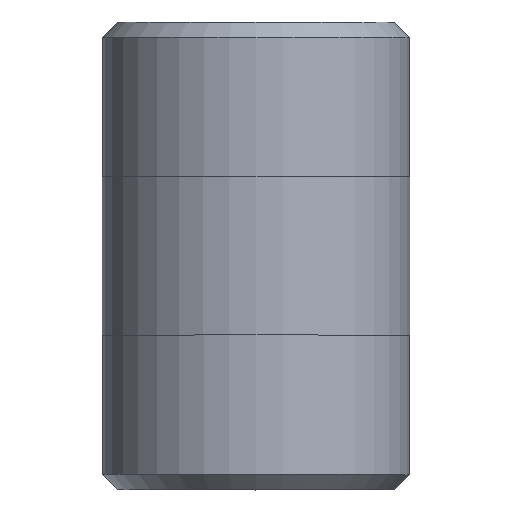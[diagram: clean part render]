
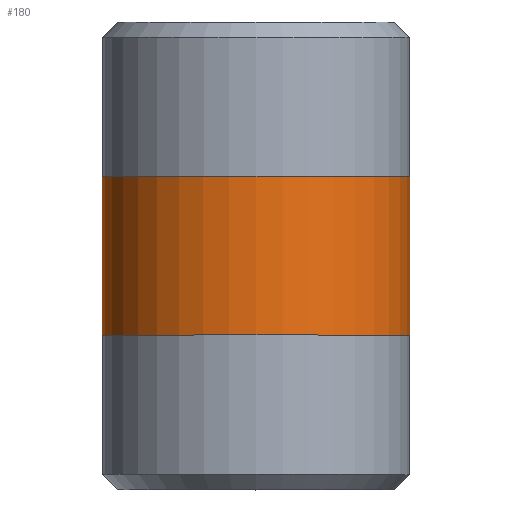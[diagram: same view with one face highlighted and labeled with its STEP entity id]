
A CAD part, top view. The second image highlights one B-rep face of the part: STEP entity #180.
In plain terms, the highlighted cylindrical face has radius 16.701 mm (diameter 33.401 mm), a full revolution.
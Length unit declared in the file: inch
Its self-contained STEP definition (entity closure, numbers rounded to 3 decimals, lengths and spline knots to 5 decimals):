
#25=CYLINDRICAL_SURFACE('',#220,0.6575);
#34=FACE_OUTER_BOUND('',#47,.T.);
#47=EDGE_LOOP('',(#155,#156,#157,#158,#159,#160));
#55=LINE('',#338,#61);
#61=VECTOR('',#283,0.6575);
#77=CIRCLE('',#218,0.6575);
#78=CIRCLE('',#219,0.6575);
#79=CIRCLE('',#221,0.6575);
#80=CIRCLE('',#222,0.6575);
#95=VERTEX_POINT('',#329);
#96=VERTEX_POINT('',#330);
#97=VERTEX_POINT('',#334);
#98=VERTEX_POINT('',#335);
#117=EDGE_CURVE('',#95,#96,#77,.T.);
#118=EDGE_CURVE('',#96,#95,#78,.T.);
#119=EDGE_CURVE('',#97,#98,#79,.T.);
#120=EDGE_CURVE('',#98,#97,#80,.T.);
#121=EDGE_CURVE('',#98,#96,#55,.T.);
#155=ORIENTED_EDGE('',*,*,#119,.F.);
#156=ORIENTED_EDGE('',*,*,#120,.F.);
#157=ORIENTED_EDGE('',*,*,#121,.T.);
#158=ORIENTED_EDGE('',*,*,#118,.T.);
#159=ORIENTED_EDGE('',*,*,#117,.T.);
#160=ORIENTED_EDGE('',*,*,#121,.F.);
#180=ADVANCED_FACE('',(#34),#25,.T.);
#218=AXIS2_PLACEMENT_3D('',#331,#273,#274);
#219=AXIS2_PLACEMENT_3D('',#332,#275,#276);
#220=AXIS2_PLACEMENT_3D('',#333,#277,#278);
#221=AXIS2_PLACEMENT_3D('',#336,#279,#280);
#222=AXIS2_PLACEMENT_3D('',#337,#281,#282);
#273=DIRECTION('center_axis',(0.,-1.,0.));
#274=DIRECTION('ref_axis',(1.,0.,0.));
#275=DIRECTION('center_axis',(0.,-1.,0.));
#276=DIRECTION('ref_axis',(1.,0.,0.));
#277=DIRECTION('center_axis',(0.,-1.,0.));
#278=DIRECTION('ref_axis',(0.,0.,-1.));
#279=DIRECTION('center_axis',(0.,-1.,0.));
#280=DIRECTION('ref_axis',(1.,0.,0.));
#281=DIRECTION('center_axis',(0.,-1.,0.));
#282=DIRECTION('ref_axis',(1.,0.,0.));
#283=DIRECTION('',(0.,1.,0.));
#329=CARTESIAN_POINT('',(0.,1.339,-0.6575));
#330=CARTESIAN_POINT('',(0.,1.339,0.6575));
#331=CARTESIAN_POINT('Origin',(0.,1.339,0.));
#332=CARTESIAN_POINT('Origin',(0.,1.339,0.));
#333=CARTESIAN_POINT('Origin',(0.,1.,0.));
#334=CARTESIAN_POINT('',(0.,0.661,-0.6575));
#335=CARTESIAN_POINT('',(0.,0.661,0.6575));
#336=CARTESIAN_POINT('Origin',(0.,0.661,0.));
#337=CARTESIAN_POINT('Origin',(0.,0.661,0.));
#338=CARTESIAN_POINT('',(0.,1.,0.6575));
